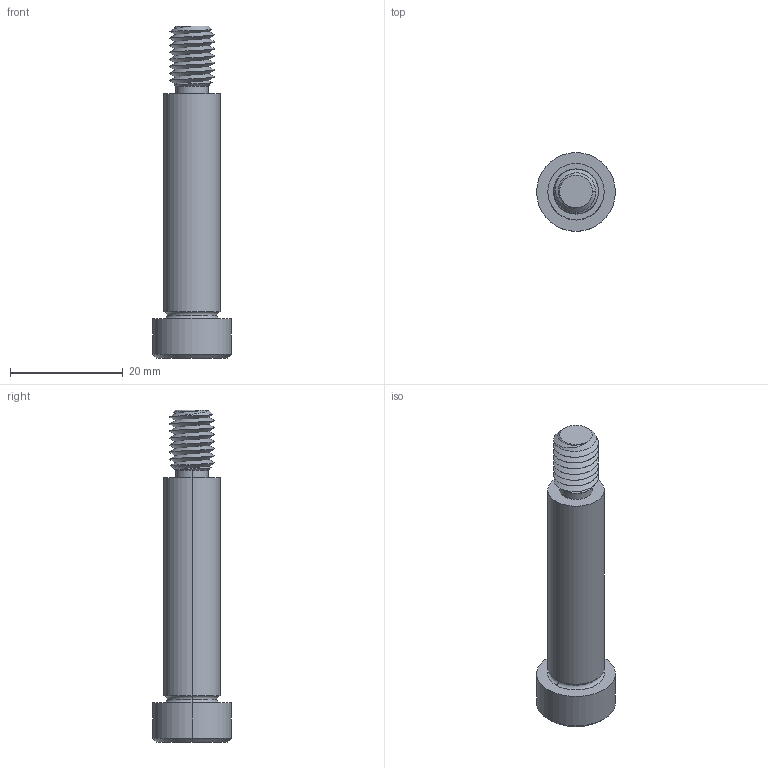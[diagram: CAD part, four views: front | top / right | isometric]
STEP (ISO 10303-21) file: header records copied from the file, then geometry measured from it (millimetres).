
FILE_DESCRIPTION (( 'STEP AP203' ), '1' );
FILE_NAME ('P0130.100-040-B8.step', '2021-11-09T21:55:02', ( '' ), ( '' ), 'SwSTEP 2.0', 'SolidWorks 2019', '' );
FILE_SCHEMA (( 'CONFIG_CONTROL_DESIGN' ));
Length unit declared in the file: millimetre
Products named in the file (1): P0130.100-040-B8
Bounding box: 14 x 14 x 59 mm (x, y, z)
Volume: 4510.6 mm3; surface area: 2434.8 mm2
Topology: 1 solids, 1 shells, 58 faces, 136 edges, 81 vertices
Faces by surface type: cylinder 20, cone 16, plane 16, torus 4, bspline 2
Entity records: 4248 total; most frequent: CARTESIAN_POINT 2944, ORIENTED_EDGE 268, DIRECTION 241, EDGE_CURVE 134, AXIS2_PLACEMENT_3D 97, VERTEX_POINT 81, EDGE_LOOP 61, FACE_OUTER_BOUND 58
